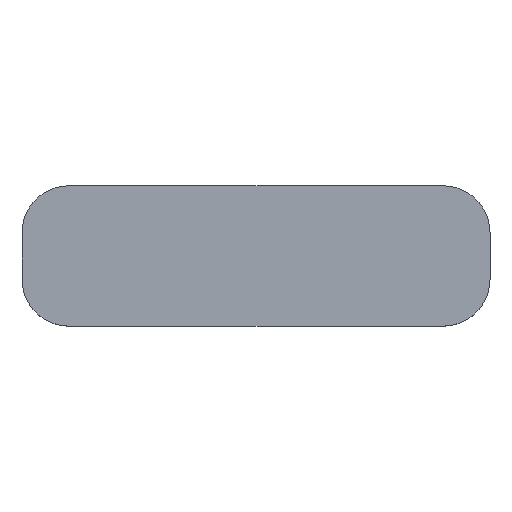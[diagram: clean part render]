
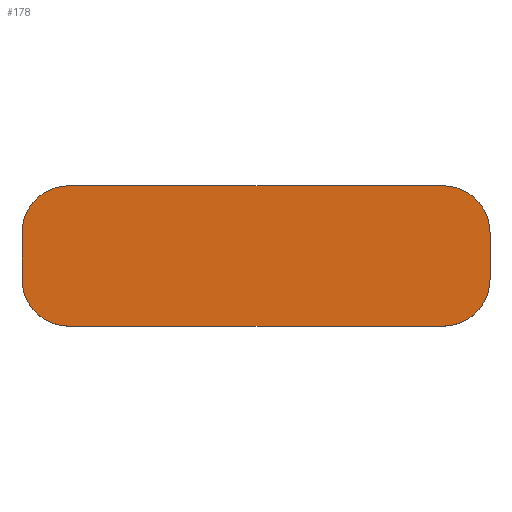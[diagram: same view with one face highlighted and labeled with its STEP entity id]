
A CAD part, top view. The second image highlights one B-rep face of the part: STEP entity #178.
In plain terms, the highlighted planar face has unit normal (0, 0, 1).
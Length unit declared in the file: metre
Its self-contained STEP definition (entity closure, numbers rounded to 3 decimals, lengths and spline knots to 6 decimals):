
#13=CIRCLE('',#196,0.01);
#15=CIRCLE('',#200,0.01);
#17=CIRCLE('',#204,0.01);
#19=CIRCLE('',#208,0.01);
#56=ORIENTED_EDGE('',*,*,#74,.T.);
#57=ORIENTED_EDGE('',*,*,#78,.T.);
#58=ORIENTED_EDGE('',*,*,#81,.T.);
#59=ORIENTED_EDGE('',*,*,#84,.T.);
#60=ORIENTED_EDGE('',*,*,#87,.F.);
#61=ORIENTED_EDGE('',*,*,#90,.T.);
#62=ORIENTED_EDGE('',*,*,#93,.F.);
#63=ORIENTED_EDGE('',*,*,#95,.T.);
#74=EDGE_CURVE('',#99,#98,#114,.T.);
#78=EDGE_CURVE('',#98,#101,#13,.T.);
#81=EDGE_CURVE('',#101,#103,#119,.T.);
#84=EDGE_CURVE('',#103,#105,#15,.T.);
#87=EDGE_CURVE('',#107,#105,#123,.T.);
#90=EDGE_CURVE('',#107,#109,#17,.T.);
#93=EDGE_CURVE('',#111,#109,#127,.T.);
#95=EDGE_CURVE('',#111,#99,#19,.T.);
#98=VERTEX_POINT('',#271);
#99=VERTEX_POINT('',#273);
#101=VERTEX_POINT('',#279);
#103=VERTEX_POINT('',#285);
#105=VERTEX_POINT('',#291);
#107=VERTEX_POINT('',#297);
#109=VERTEX_POINT('',#303);
#111=VERTEX_POINT('',#309);
#114=LINE('',#272,#130);
#119=LINE('',#286,#135);
#123=LINE('',#298,#139);
#127=LINE('',#310,#143);
#130=VECTOR('',#217,1.);
#135=VECTOR('',#230,1.);
#139=VECTOR('',#242,1.);
#143=VECTOR('',#254,1.);
#152=EDGE_LOOP('',(#56,#57,#58,#59,#60,#61,#62,#63));
#162=FACE_BOUND('',#152,.T.);
#168=PLANE('',#209);
#178=ADVANCED_FACE('',(#162),#168,.T.);
#196=AXIS2_PLACEMENT_3D('',#280,#224,#225);
#200=AXIS2_PLACEMENT_3D('',#292,#236,#237);
#204=AXIS2_PLACEMENT_3D('',#304,#248,#249);
#208=AXIS2_PLACEMENT_3D('',#313,#259,#260);
#209=AXIS2_PLACEMENT_3D('',#314,#261,#262);
#217=DIRECTION('',(0.,-1.,0.));
#224=DIRECTION('',(0.,0.,1.));
#225=DIRECTION('',(-1.,0.,0.));
#230=DIRECTION('',(1.,0.,0.));
#236=DIRECTION('',(0.,0.,1.));
#237=DIRECTION('',(0.,-1.,0.));
#242=DIRECTION('',(0.,-1.,0.));
#248=DIRECTION('',(0.,0.,1.));
#249=DIRECTION('',(1.,0.,0.));
#254=DIRECTION('',(1.,0.,0.));
#259=DIRECTION('',(0.,0.,1.));
#260=DIRECTION('',(0.,1.,0.));
#261=DIRECTION('',(0.,0.,1.));
#262=DIRECTION('',(1.,0.,0.));
#271=CARTESIAN_POINT('',(-0.290991,-0.456487,0.01));
#272=CARTESIAN_POINT('',(-0.290991,-0.451487,0.01));
#273=CARTESIAN_POINT('',(-0.290991,-0.446487,0.01));
#279=CARTESIAN_POINT('',(-0.280991,-0.466487,0.01));
#280=CARTESIAN_POINT('',(-0.280991,-0.456487,0.01));
#285=CARTESIAN_POINT('',(-0.200991,-0.466487,0.01));
#286=CARTESIAN_POINT('',(-0.240991,-0.466487,0.01));
#291=CARTESIAN_POINT('',(-0.190991,-0.456487,0.01));
#292=CARTESIAN_POINT('',(-0.200991,-0.456487,0.01));
#297=CARTESIAN_POINT('',(-0.190991,-0.446487,0.01));
#298=CARTESIAN_POINT('',(-0.190991,-0.451487,0.01));
#303=CARTESIAN_POINT('',(-0.200991,-0.436487,0.01));
#304=CARTESIAN_POINT('',(-0.200991,-0.446487,0.01));
#309=CARTESIAN_POINT('',(-0.280991,-0.436487,0.01));
#310=CARTESIAN_POINT('',(-0.240991,-0.436487,0.01));
#313=CARTESIAN_POINT('',(-0.280991,-0.446487,0.01));
#314=CARTESIAN_POINT('',(-0.240991,-0.451487,0.01));
